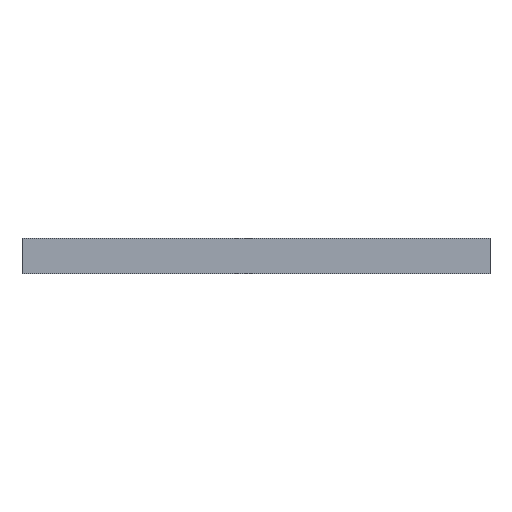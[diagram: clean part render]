
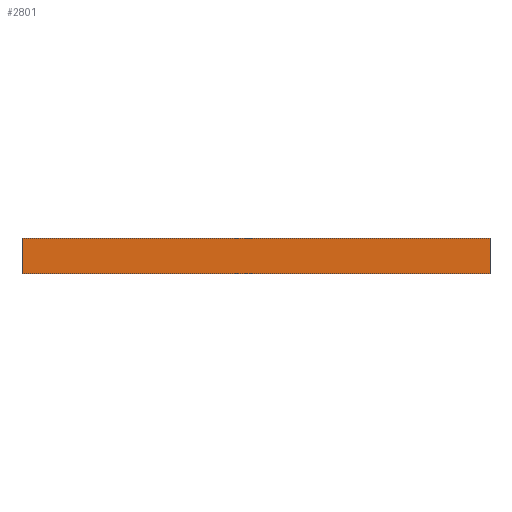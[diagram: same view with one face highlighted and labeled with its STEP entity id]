
A CAD part, front view. The second image highlights one B-rep face of the part: STEP entity #2801.
In plain terms, the highlighted planar face has unit normal (0, -1, 0).
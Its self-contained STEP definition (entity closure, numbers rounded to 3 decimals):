
#32 = PLANE('',#33);
#33 = AXIS2_PLACEMENT_3D('',#34,#35,#36);
#34 = CARTESIAN_POINT('',(0.,0.,6.));
#35 = DIRECTION('',(0.,0.,-1.));
#36 = DIRECTION('',(-1.,0.,0.));
#85 = VERTEX_POINT('',#86);
#86 = CARTESIAN_POINT('',(0.,0.,6.));
#100 = PLANE('',#101);
#101 = AXIS2_PLACEMENT_3D('',#102,#103,#104);
#102 = CARTESIAN_POINT('',(0.,0.,6.));
#103 = DIRECTION('',(1.,0.,0.));
#104 = DIRECTION('',(0.,0.,-1.));
#112 = EDGE_CURVE('',#85,#113,#115,.T.);
#113 = VERTEX_POINT('',#114);
#114 = CARTESIAN_POINT('',(80.,0.,6.));
#115 = SURFACE_CURVE('',#116,(#120,#127),.PCURVE_S1.);
#116 = LINE('',#117,#118);
#117 = CARTESIAN_POINT('',(0.,0.,6.));
#118 = VECTOR('',#119,1.);
#119 = DIRECTION('',(1.,0.,0.));
#120 = PCURVE('',#32,#121);
#121 = DEFINITIONAL_REPRESENTATION('',(#122),#126);
#122 = LINE('',#123,#124);
#123 = CARTESIAN_POINT('',(0.,0.));
#124 = VECTOR('',#125,1.);
#125 = DIRECTION('',(-1.,0.));
#126 = ( GEOMETRIC_REPRESENTATION_CONTEXT(2) 
PARAMETRIC_REPRESENTATION_CONTEXT() REPRESENTATION_CONTEXT('2D SPACE',''
  ) );
#127 = PCURVE('',#128,#133);
#128 = PLANE('',#129);
#129 = AXIS2_PLACEMENT_3D('',#130,#131,#132);
#130 = CARTESIAN_POINT('',(0.,0.,6.));
#131 = DIRECTION('',(0.,1.,0.));
#132 = DIRECTION('',(0.,-0.,1.));
#133 = DEFINITIONAL_REPRESENTATION('',(#134),#138);
#134 = LINE('',#135,#136);
#135 = CARTESIAN_POINT('',(0.,0.));
#136 = VECTOR('',#137,1.);
#137 = DIRECTION('',(0.,1.));
#138 = ( GEOMETRIC_REPRESENTATION_CONTEXT(2) 
PARAMETRIC_REPRESENTATION_CONTEXT() REPRESENTATION_CONTEXT('2D SPACE',''
  ) );
#156 = PLANE('',#157);
#157 = AXIS2_PLACEMENT_3D('',#158,#159,#160);
#158 = CARTESIAN_POINT('',(80.,0.,6.));
#159 = DIRECTION('',(-1.,0.,0.));
#160 = DIRECTION('',(0.,0.,1.));
#1485 = VERTEX_POINT('',#1486);
#1486 = CARTESIAN_POINT('',(0.,0.,0.));
#1493 = PLANE('',#1494);
#1494 = AXIS2_PLACEMENT_3D('',#1495,#1496,#1497);
#1495 = CARTESIAN_POINT('',(0.,0.,0.));
#1496 = DIRECTION('',(0.,0.,-1.));
#1497 = DIRECTION('',(-1.,0.,0.));
#1582 = VERTEX_POINT('',#1583);
#1583 = CARTESIAN_POINT('',(80.,0.,0.));
#1604 = EDGE_CURVE('',#1485,#1582,#1605,.T.);
#1605 = SURFACE_CURVE('',#1606,(#1610,#1617),.PCURVE_S1.);
#1606 = LINE('',#1607,#1608);
#1607 = CARTESIAN_POINT('',(0.,0.,0.));
#1608 = VECTOR('',#1609,1.);
#1609 = DIRECTION('',(1.,0.,0.));
#1610 = PCURVE('',#1493,#1611);
#1611 = DEFINITIONAL_REPRESENTATION('',(#1612),#1616);
#1612 = LINE('',#1613,#1614);
#1613 = CARTESIAN_POINT('',(0.,0.));
#1614 = VECTOR('',#1615,1.);
#1615 = DIRECTION('',(-1.,0.));
#1616 = ( GEOMETRIC_REPRESENTATION_CONTEXT(2) 
PARAMETRIC_REPRESENTATION_CONTEXT() REPRESENTATION_CONTEXT('2D SPACE',''
  ) );
#1617 = PCURVE('',#128,#1618);
#1618 = DEFINITIONAL_REPRESENTATION('',(#1619),#1623);
#1619 = LINE('',#1620,#1621);
#1620 = CARTESIAN_POINT('',(-6.,0.));
#1621 = VECTOR('',#1622,1.);
#1622 = DIRECTION('',(0.,1.));
#1623 = ( GEOMETRIC_REPRESENTATION_CONTEXT(2) 
PARAMETRIC_REPRESENTATION_CONTEXT() REPRESENTATION_CONTEXT('2D SPACE',''
  ) );
#2781 = EDGE_CURVE('',#85,#1485,#2782,.T.);
#2782 = SURFACE_CURVE('',#2783,(#2787,#2794),.PCURVE_S1.);
#2783 = LINE('',#2784,#2785);
#2784 = CARTESIAN_POINT('',(0.,0.,6.));
#2785 = VECTOR('',#2786,1.);
#2786 = DIRECTION('',(0.,0.,-1.));
#2787 = PCURVE('',#100,#2788);
#2788 = DEFINITIONAL_REPRESENTATION('',(#2789),#2793);
#2789 = LINE('',#2790,#2791);
#2790 = CARTESIAN_POINT('',(0.,0.));
#2791 = VECTOR('',#2792,1.);
#2792 = DIRECTION('',(1.,0.));
#2793 = ( GEOMETRIC_REPRESENTATION_CONTEXT(2) 
PARAMETRIC_REPRESENTATION_CONTEXT() REPRESENTATION_CONTEXT('2D SPACE',''
  ) );
#2794 = PCURVE('',#128,#2795);
#2795 = DEFINITIONAL_REPRESENTATION('',(#2796),#2800);
#2796 = LINE('',#2797,#2798);
#2797 = CARTESIAN_POINT('',(0.,0.));
#2798 = VECTOR('',#2799,1.);
#2799 = DIRECTION('',(-1.,0.));
#2800 = ( GEOMETRIC_REPRESENTATION_CONTEXT(2) 
PARAMETRIC_REPRESENTATION_CONTEXT() REPRESENTATION_CONTEXT('2D SPACE',''
  ) );
#2801 = ADVANCED_FACE('',(#2802),#128,.F.);
#2802 = FACE_BOUND('',#2803,.T.);
#2803 = EDGE_LOOP('',(#2804,#2805,#2826,#2827));
#2804 = ORIENTED_EDGE('',*,*,#1604,.T.);
#2805 = ORIENTED_EDGE('',*,*,#2806,.F.);
#2806 = EDGE_CURVE('',#113,#1582,#2807,.T.);
#2807 = SURFACE_CURVE('',#2808,(#2812,#2819),.PCURVE_S1.);
#2808 = LINE('',#2809,#2810);
#2809 = CARTESIAN_POINT('',(80.,0.,6.));
#2810 = VECTOR('',#2811,1.);
#2811 = DIRECTION('',(0.,0.,-1.));
#2812 = PCURVE('',#128,#2813);
#2813 = DEFINITIONAL_REPRESENTATION('',(#2814),#2818);
#2814 = LINE('',#2815,#2816);
#2815 = CARTESIAN_POINT('',(0.,80.));
#2816 = VECTOR('',#2817,1.);
#2817 = DIRECTION('',(-1.,0.));
#2818 = ( GEOMETRIC_REPRESENTATION_CONTEXT(2) 
PARAMETRIC_REPRESENTATION_CONTEXT() REPRESENTATION_CONTEXT('2D SPACE',''
  ) );
#2819 = PCURVE('',#156,#2820);
#2820 = DEFINITIONAL_REPRESENTATION('',(#2821),#2825);
#2821 = LINE('',#2822,#2823);
#2822 = CARTESIAN_POINT('',(0.,0.));
#2823 = VECTOR('',#2824,1.);
#2824 = DIRECTION('',(-1.,0.));
#2825 = ( GEOMETRIC_REPRESENTATION_CONTEXT(2) 
PARAMETRIC_REPRESENTATION_CONTEXT() REPRESENTATION_CONTEXT('2D SPACE',''
  ) );
#2826 = ORIENTED_EDGE('',*,*,#112,.F.);
#2827 = ORIENTED_EDGE('',*,*,#2781,.T.);
